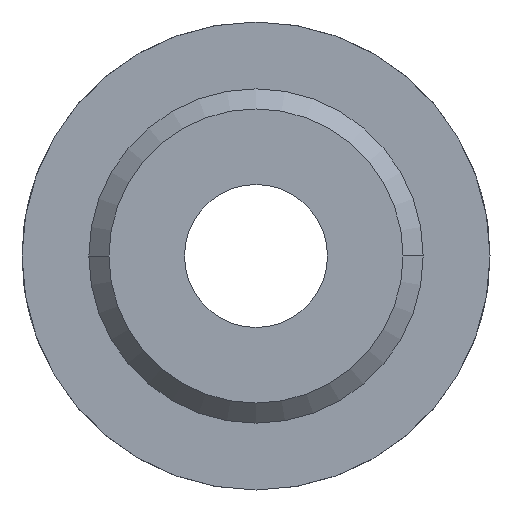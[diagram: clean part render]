
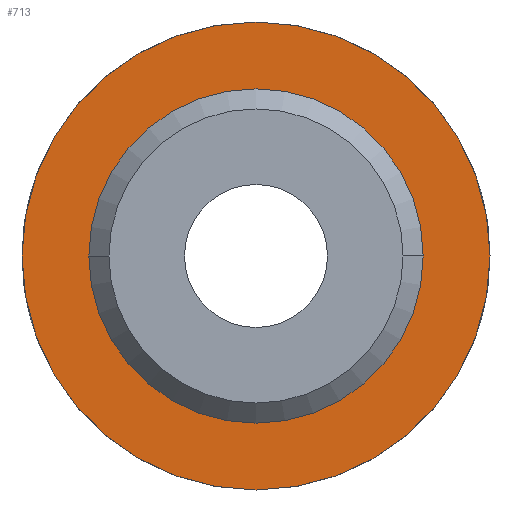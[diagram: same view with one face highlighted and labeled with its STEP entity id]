
A CAD part, front view. The second image highlights one B-rep face of the part: STEP entity #713.
In plain terms, the highlighted planar face has unit normal (0, -1, 0).
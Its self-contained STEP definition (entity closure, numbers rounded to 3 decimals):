
#6 = FACE_BOUND ( 'NONE', #428, .T. ) ;
#12 = CARTESIAN_POINT ( 'NONE',  ( 17.5, 0., 0. ) ) ;
#15 = DIRECTION ( 'NONE',  ( -1., 0., 0. ) ) ;
#22 = CARTESIAN_POINT ( 'NONE',  ( -12.4, 0., 0. ) ) ;
#103 = VERTEX_POINT ( 'NONE', #22 ) ;
#104 = DIRECTION ( 'NONE',  ( 0., 1., 0. ) ) ;
#156 = CARTESIAN_POINT ( 'NONE',  ( 0., 0., 0. ) ) ;
#159 = CIRCLE ( 'NONE', #174, 12.4 ) ;
#174 = AXIS2_PLACEMENT_3D ( 'NONE', #297, #104, #513 ) ;
#178 = DIRECTION ( 'NONE',  ( 0., 1., 0. ) ) ;
#199 = ORIENTED_EDGE ( 'NONE', *, *, #761, .T. ) ;
#201 = CIRCLE ( 'NONE', #679, 17.5 ) ;
#207 = FACE_OUTER_BOUND ( 'NONE', #348, .T. ) ;
#236 = DIRECTION ( 'NONE',  ( -1., 0., 0. ) ) ;
#239 = VERTEX_POINT ( 'NONE', #798 ) ;
#297 = CARTESIAN_POINT ( 'NONE',  ( 0., 0., 0. ) ) ;
#305 = AXIS2_PLACEMENT_3D ( 'NONE', #156, #651, #866 ) ;
#348 = EDGE_LOOP ( 'NONE', ( #449, #882 ) ) ;
#354 = DIRECTION ( 'NONE',  ( 0., 1., 0. ) ) ;
#370 = AXIS2_PLACEMENT_3D ( 'NONE', #12, #354, #15 ) ;
#392 = EDGE_CURVE ( 'NONE', #239, #476, #201, .T. ) ;
#428 = EDGE_LOOP ( 'NONE', ( #199, #499 ) ) ;
#441 = CARTESIAN_POINT ( 'NONE',  ( 0., 0., 0. ) ) ;
#449 = ORIENTED_EDGE ( 'NONE', *, *, #392, .F. ) ;
#476 = VERTEX_POINT ( 'NONE', #881 ) ;
#499 = ORIENTED_EDGE ( 'NONE', *, *, #849, .T. ) ;
#513 = DIRECTION ( 'NONE',  ( -1., 0., 0. ) ) ;
#551 = VERTEX_POINT ( 'NONE', #627 ) ;
#574 = CIRCLE ( 'NONE', #305, 12.4 ) ;
#627 = CARTESIAN_POINT ( 'NONE',  ( 12.4, 0., 0. ) ) ;
#651 = DIRECTION ( 'NONE',  ( 0., 1., 0. ) ) ;
#668 = CARTESIAN_POINT ( 'NONE',  ( 0., 0., 0. ) ) ;
#679 = AXIS2_PLACEMENT_3D ( 'NONE', #668, #870, #720 ) ;
#700 = PLANE ( 'NONE',  #370 ) ;
#713 = ADVANCED_FACE ( 'NONE', ( #6, #207 ), #700, .F. ) ;
#720 = DIRECTION ( 'NONE',  ( -1., 0., 0. ) ) ;
#761 = EDGE_CURVE ( 'NONE', #103, #551, #159, .T. ) ;
#781 = EDGE_CURVE ( 'NONE', #476, #239, #829, .T. ) ;
#798 = CARTESIAN_POINT ( 'NONE',  ( -17.5, 0., 0. ) ) ;
#829 = CIRCLE ( 'NONE', #886, 17.5 ) ;
#849 = EDGE_CURVE ( 'NONE', #551, #103, #574, .T. ) ;
#866 = DIRECTION ( 'NONE',  ( -1., 0., 0. ) ) ;
#870 = DIRECTION ( 'NONE',  ( 0., 1., 0. ) ) ;
#881 = CARTESIAN_POINT ( 'NONE',  ( 17.5, 0., 0. ) ) ;
#882 = ORIENTED_EDGE ( 'NONE', *, *, #781, .F. ) ;
#886 = AXIS2_PLACEMENT_3D ( 'NONE', #441, #178, #236 ) ;
